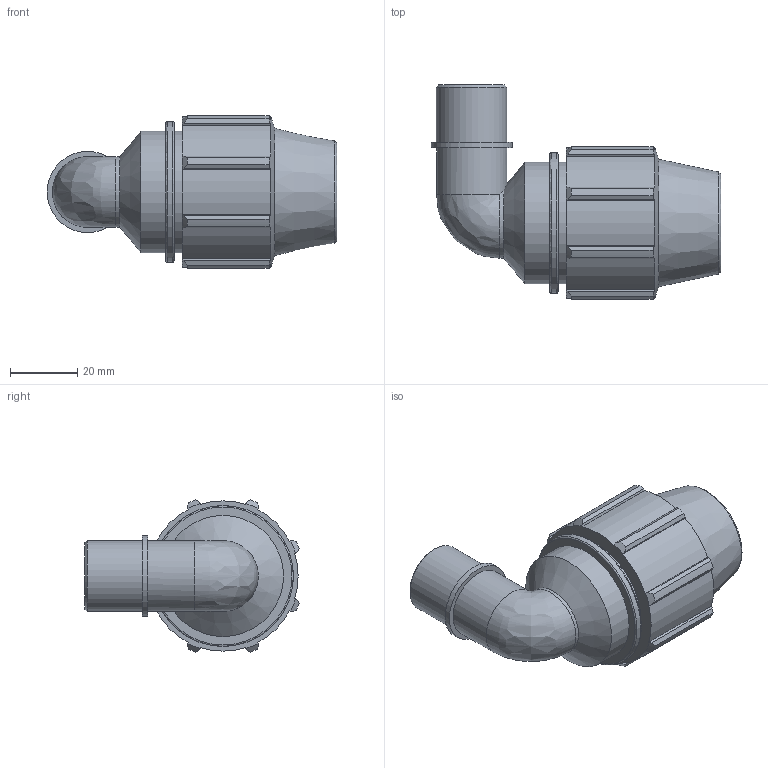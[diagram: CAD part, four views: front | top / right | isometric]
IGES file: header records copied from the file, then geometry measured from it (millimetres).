
Global section: file name: 078500020005_188500020005_0785060200050A.ipt; native system: Autodesk Inventor 2015; preprocessor: unknown; author: KIM; date: 20170606.133114; units: millimetre
Bounding box: 86.05 x 63.58 x 45.16 mm (x, y, z)
Volume: 67174.5 mm3; surface area: 20418.3 mm2
Topology: 1 solids, 1 shells, 86 faces, 237 edges, 158 vertices
Faces by surface type: plane 41, cylinder 23, cone 12, revolution 9, bspline 1
Full cylindrical faces by diameter (mm): 20.955 x2, 24.098 x1, 36 x2, 41.76 x1
